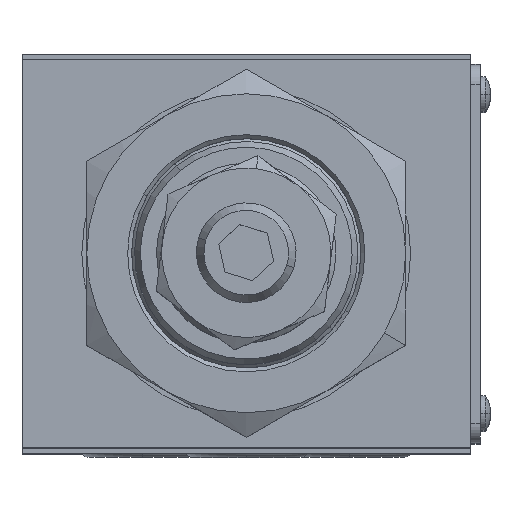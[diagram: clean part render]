
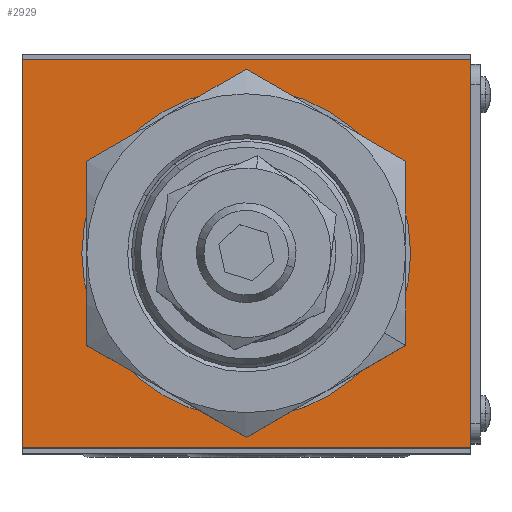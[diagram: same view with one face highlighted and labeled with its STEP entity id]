
A CAD part, top view. The second image highlights one B-rep face of the part: STEP entity #2929.
In plain terms, the highlighted planar face has unit normal (0, 0, 1).
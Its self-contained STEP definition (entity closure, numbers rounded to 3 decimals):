
#465 = EDGE_CURVE ( 'NONE', #8962, #65324, #41041, .T. ) ;
#2929 = ADVANCED_FACE ( 'NONE', ( #45626, #62657 ), #41653, .T. ) ;
#4377 = EDGE_CURVE ( 'NONE', #14888, #12894, #31763, .T. ) ;
#8540 = CARTESIAN_POINT ( 'NONE',  ( -16.5, 0., 47.5 ) ) ;
#8962 = VERTEX_POINT ( 'NONE', #51154 ) ;
#11344 = VECTOR ( 'NONE', #27350, 1000. ) ;
#12448 = VECTOR ( 'NONE', #40535, 1000. ) ;
#12894 = VERTEX_POINT ( 'NONE', #32121 ) ;
#14602 = DIRECTION ( 'NONE',  ( 0., -1., 0. ) ) ;
#14869 = ORIENTED_EDGE ( 'NONE', *, *, #58381, .F. ) ;
#14888 = VERTEX_POINT ( 'NONE', #65254 ) ;
#16673 = EDGE_CURVE ( 'NONE', #28210, #86681, #90417, .T. ) ;
#17018 = DIRECTION ( 'NONE',  ( 0., 0., 1. ) ) ;
#21096 = DIRECTION ( 'NONE',  ( 0., 0., 1. ) ) ;
#23411 = EDGE_CURVE ( 'NONE', #28210, #12894, #62071, .T. ) ;
#27350 = DIRECTION ( 'NONE',  ( -1., 0., 0. ) ) ;
#28210 = VERTEX_POINT ( 'NONE', #60612 ) ;
#31433 = EDGE_LOOP ( 'NONE', ( #46253, #64354 ) ) ;
#31763 = LINE ( 'NONE', #33759, #12448 ) ;
#32121 = CARTESIAN_POINT ( 'NONE',  ( 22.5, 19.5, 47.5 ) ) ;
#33724 = CARTESIAN_POINT ( 'NONE',  ( -22.5, 19.5, 47.5 ) ) ;
#33759 = CARTESIAN_POINT ( 'NONE',  ( 22.5, 20., 47.5 ) ) ;
#35541 = CARTESIAN_POINT ( 'NONE',  ( -22.5, 20., 47.5 ) ) ;
#35986 = ORIENTED_EDGE ( 'NONE', *, *, #4377, .T. ) ;
#36408 = CARTESIAN_POINT ( 'NONE',  ( -22.5, -19.5, 47.5 ) ) ;
#40535 = DIRECTION ( 'NONE',  ( 0., 1., 0. ) ) ;
#41041 = CIRCLE ( 'NONE', #92810, 16.5 ) ;
#41607 = CARTESIAN_POINT ( 'NONE',  ( -22.5, -19.5, 47.5 ) ) ;
#41653 = PLANE ( 'NONE',  #61712 ) ;
#41887 = ORIENTED_EDGE ( 'NONE', *, *, #16673, .T. ) ;
#42765 = VECTOR ( 'NONE', #91713, 1000. ) ;
#43481 = CIRCLE ( 'NONE', #84114, 16.5 ) ;
#45626 = FACE_BOUND ( 'NONE', #31433, .T. ) ;
#46253 = ORIENTED_EDGE ( 'NONE', *, *, #465, .F. ) ;
#51154 = CARTESIAN_POINT ( 'NONE',  ( 16.5, 0., 47.5 ) ) ;
#51906 = EDGE_LOOP ( 'NONE', ( #14869, #35986, #90329, #41887 ) ) ;
#58381 = EDGE_CURVE ( 'NONE', #14888, #86681, #71444, .T. ) ;
#60459 = CARTESIAN_POINT ( 'NONE',  ( 0., 0., 47.5 ) ) ;
#60612 = CARTESIAN_POINT ( 'NONE',  ( -22.5, 19.5, 47.5 ) ) ;
#61712 = AXIS2_PLACEMENT_3D ( 'NONE', #77803, #92045, #92360 ) ;
#62071 = LINE ( 'NONE', #33724, #42765 ) ;
#62657 = FACE_OUTER_BOUND ( 'NONE', #51906, .T. ) ;
#64354 = ORIENTED_EDGE ( 'NONE', *, *, #85723, .F. ) ;
#64557 = CARTESIAN_POINT ( 'NONE',  ( 0., 0., 47.5 ) ) ;
#65254 = CARTESIAN_POINT ( 'NONE',  ( 22.5, -19.5, 47.5 ) ) ;
#65324 = VERTEX_POINT ( 'NONE', #8540 ) ;
#67776 = DIRECTION ( 'NONE',  ( 1., 0., 0. ) ) ;
#71136 = VECTOR ( 'NONE', #14602, 1000. ) ;
#71444 = LINE ( 'NONE', #41607, #11344 ) ;
#71814 = DIRECTION ( 'NONE',  ( 1., 0., 0. ) ) ;
#77803 = CARTESIAN_POINT ( 'NONE',  ( -22.5, -20., 47.5 ) ) ;
#84114 = AXIS2_PLACEMENT_3D ( 'NONE', #64557, #21096, #71814 ) ;
#85723 = EDGE_CURVE ( 'NONE', #65324, #8962, #43481, .T. ) ;
#86681 = VERTEX_POINT ( 'NONE', #36408 ) ;
#90329 = ORIENTED_EDGE ( 'NONE', *, *, #23411, .F. ) ;
#90417 = LINE ( 'NONE', #35541, #71136 ) ;
#91713 = DIRECTION ( 'NONE',  ( 1., 0., 0. ) ) ;
#92045 = DIRECTION ( 'NONE',  ( 0., 0., 1. ) ) ;
#92360 = DIRECTION ( 'NONE',  ( 1., 0., 0. ) ) ;
#92810 = AXIS2_PLACEMENT_3D ( 'NONE', #60459, #17018, #67776 ) ;
